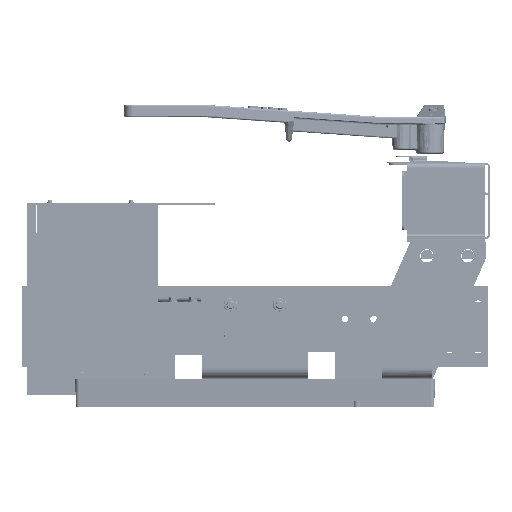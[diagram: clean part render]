
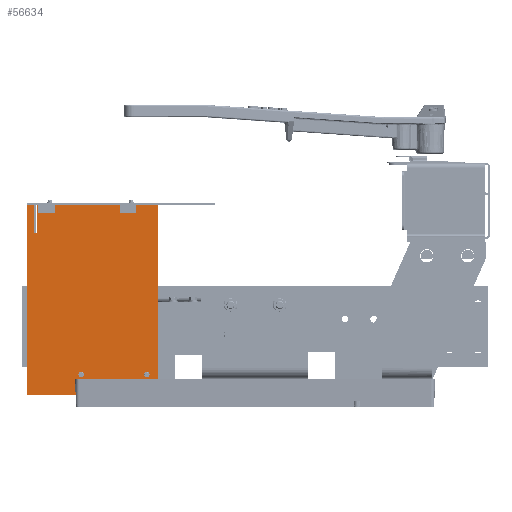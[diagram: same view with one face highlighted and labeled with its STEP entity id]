
A CAD part, left-side view. The second image highlights one B-rep face of the part: STEP entity #56634.
In plain terms, the highlighted planar face has unit normal (-1, 0, 0) as drawn and (0, 0, -1) by its records, which use the part's own axes.
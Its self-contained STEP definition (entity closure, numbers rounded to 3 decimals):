
#3199=FACE_BOUND('',#12655,.T.);
#3200=FACE_BOUND('',#12656,.T.);
#3201=FACE_BOUND('',#12657,.T.);
#3202=FACE_BOUND('',#12658,.T.);
#5075=CIRCLE('',#62670,0.097);
#5077=CIRCLE('',#62673,0.097);
#5079=CIRCLE('',#62676,0.097);
#5081=CIRCLE('',#62679,0.097);
#8926=FACE_OUTER_BOUND('',#12654,.T.);
#12654=EDGE_LOOP('',(#48302,#48303,#48304,#48305,#48306,#48307,#48308,#48309,
#48310,#48311,#48312,#48313));
#12655=EDGE_LOOP('',(#48314));
#12656=EDGE_LOOP('',(#48315));
#12657=EDGE_LOOP('',(#48316));
#12658=EDGE_LOOP('',(#48317));
#17365=LINE('',#98673,#22125);
#17369=LINE('',#98681,#22129);
#17372=LINE('',#98687,#22132);
#17375=LINE('',#98693,#22135);
#17378=LINE('',#98699,#22138);
#17381=LINE('',#98705,#22141);
#17384=LINE('',#98711,#22144);
#17387=LINE('',#98717,#22147);
#17390=LINE('',#98723,#22150);
#17393=LINE('',#98729,#22153);
#17396=LINE('',#98735,#22156);
#17399=LINE('',#98740,#22159);
#22125=VECTOR('',#75968,0.394);
#22129=VECTOR('',#75974,0.394);
#22132=VECTOR('',#75979,0.394);
#22135=VECTOR('',#75984,0.394);
#22138=VECTOR('',#75989,0.394);
#22141=VECTOR('',#75994,0.394);
#22144=VECTOR('',#75999,0.394);
#22147=VECTOR('',#76004,0.394);
#22150=VECTOR('',#76009,0.394);
#22153=VECTOR('',#76014,0.394);
#22156=VECTOR('',#76019,0.394);
#22159=VECTOR('',#76024,0.394);
#27044=VERTEX_POINT('',#98647);
#27046=VERTEX_POINT('',#98653);
#27048=VERTEX_POINT('',#98659);
#27050=VERTEX_POINT('',#98665);
#27052=VERTEX_POINT('',#98671);
#27053=VERTEX_POINT('',#98672);
#27056=VERTEX_POINT('',#98680);
#27058=VERTEX_POINT('',#98686);
#27060=VERTEX_POINT('',#98692);
#27062=VERTEX_POINT('',#98698);
#27064=VERTEX_POINT('',#98704);
#27066=VERTEX_POINT('',#98710);
#27068=VERTEX_POINT('',#98716);
#27070=VERTEX_POINT('',#98722);
#27072=VERTEX_POINT('',#98728);
#27074=VERTEX_POINT('',#98734);
#34310=EDGE_CURVE('',#27044,#27044,#5075,.T.);
#34313=EDGE_CURVE('',#27046,#27046,#5077,.T.);
#34316=EDGE_CURVE('',#27048,#27048,#5079,.T.);
#34319=EDGE_CURVE('',#27050,#27050,#5081,.T.);
#34322=EDGE_CURVE('',#27052,#27053,#17365,.T.);
#34326=EDGE_CURVE('',#27056,#27052,#17369,.T.);
#34329=EDGE_CURVE('',#27058,#27056,#17372,.T.);
#34332=EDGE_CURVE('',#27060,#27058,#17375,.T.);
#34335=EDGE_CURVE('',#27062,#27060,#17378,.T.);
#34338=EDGE_CURVE('',#27064,#27062,#17381,.T.);
#34341=EDGE_CURVE('',#27066,#27064,#17384,.T.);
#34344=EDGE_CURVE('',#27068,#27066,#17387,.T.);
#34347=EDGE_CURVE('',#27070,#27068,#17390,.T.);
#34350=EDGE_CURVE('',#27072,#27070,#17393,.T.);
#34353=EDGE_CURVE('',#27074,#27072,#17396,.T.);
#34356=EDGE_CURVE('',#27053,#27074,#17399,.T.);
#48302=ORIENTED_EDGE('',*,*,#34356,.F.);
#48303=ORIENTED_EDGE('',*,*,#34322,.F.);
#48304=ORIENTED_EDGE('',*,*,#34326,.F.);
#48305=ORIENTED_EDGE('',*,*,#34329,.F.);
#48306=ORIENTED_EDGE('',*,*,#34332,.F.);
#48307=ORIENTED_EDGE('',*,*,#34335,.F.);
#48308=ORIENTED_EDGE('',*,*,#34338,.F.);
#48309=ORIENTED_EDGE('',*,*,#34341,.F.);
#48310=ORIENTED_EDGE('',*,*,#34344,.F.);
#48311=ORIENTED_EDGE('',*,*,#34347,.F.);
#48312=ORIENTED_EDGE('',*,*,#34350,.F.);
#48313=ORIENTED_EDGE('',*,*,#34353,.F.);
#48314=ORIENTED_EDGE('',*,*,#34310,.T.);
#48315=ORIENTED_EDGE('',*,*,#34313,.T.);
#48316=ORIENTED_EDGE('',*,*,#34316,.T.);
#48317=ORIENTED_EDGE('',*,*,#34319,.T.);
#53939=PLANE('',#62694);
#56634=ADVANCED_FACE('',(#8926,#3199,#3200,#3201,#3202),#53939,.F.);
#62670=AXIS2_PLACEMENT_3D('',#98648,#75940,#75941);
#62673=AXIS2_PLACEMENT_3D('',#98654,#75947,#75948);
#62676=AXIS2_PLACEMENT_3D('',#98660,#75954,#75955);
#62679=AXIS2_PLACEMENT_3D('',#98666,#75961,#75962);
#62694=AXIS2_PLACEMENT_3D('',#98743,#76028,#76029);
#75940=DIRECTION('center_axis',(0.,0.,1.));
#75941=DIRECTION('ref_axis',(-1.,0.,0.));
#75947=DIRECTION('center_axis',(0.,0.,1.));
#75948=DIRECTION('ref_axis',(-1.,0.,0.));
#75954=DIRECTION('center_axis',(0.,0.,1.));
#75955=DIRECTION('ref_axis',(-1.,0.,0.));
#75961=DIRECTION('center_axis',(0.,0.,1.));
#75962=DIRECTION('ref_axis',(-1.,0.,0.));
#75968=DIRECTION('',(1.,0.,0.));
#75974=DIRECTION('',(0.,1.,0.));
#75979=DIRECTION('',(1.,0.,0.));
#75984=DIRECTION('',(0.,-1.,0.));
#75989=DIRECTION('',(-1.,0.,0.));
#75994=DIRECTION('',(0.,-1.,0.));
#75999=DIRECTION('',(1.,0.,0.));
#76004=DIRECTION('',(0.,-1.,0.));
#76009=DIRECTION('',(-1.,0.,0.));
#76014=DIRECTION('',(0.,1.,0.));
#76019=DIRECTION('',(1.,0.,0.));
#76024=DIRECTION('',(0.,-1.,0.));
#76028=DIRECTION('center_axis',(0.,0.,1.));
#76029=DIRECTION('ref_axis',(1.,0.,0.));
#98647=CARTESIAN_POINT('',(0.347,2.,0.));
#98648=CARTESIAN_POINT('Origin',(0.25,2.,0.));
#98653=CARTESIAN_POINT('',(0.347,7.,0.));
#98654=CARTESIAN_POINT('Origin',(0.25,7.,0.));
#98659=CARTESIAN_POINT('',(10.472,0.688,0.));
#98660=CARTESIAN_POINT('Origin',(10.375,0.688,0.));
#98665=CARTESIAN_POINT('',(10.472,4.688,0.));
#98666=CARTESIAN_POINT('Origin',(10.375,4.688,0.));
#98671=CARTESIAN_POINT('',(10.625,5.094,0.));
#98672=CARTESIAN_POINT('',(11.156,5.094,0.));
#98673=CARTESIAN_POINT('',(10.625,5.094,0.));
#98680=CARTESIAN_POINT('',(10.625,0.,0.));
#98681=CARTESIAN_POINT('',(10.625,0.,0.));
#98686=CARTESIAN_POINT('',(0.,0.,0.));
#98687=CARTESIAN_POINT('',(0.,0.,0.));
#98692=CARTESIAN_POINT('',(0.,7.422,0.));
#98693=CARTESIAN_POINT('',(0.,7.422,0.));
#98698=CARTESIAN_POINT('',(1.75,7.422,0.));
#98699=CARTESIAN_POINT('',(1.75,7.422,0.));
#98704=CARTESIAN_POINT('',(1.75,7.578,0.));
#98705=CARTESIAN_POINT('',(1.75,7.578,0.));
#98710=CARTESIAN_POINT('',(0.,7.578,0.));
#98711=CARTESIAN_POINT('',(0.,7.578,0.));
#98716=CARTESIAN_POINT('',(0.,8.,0.));
#98717=CARTESIAN_POINT('',(0.,8.,0.));
#98722=CARTESIAN_POINT('',(11.625,8.,0.));
#98723=CARTESIAN_POINT('',(11.625,8.,0.));
#98728=CARTESIAN_POINT('',(11.625,4.719,0.));
#98729=CARTESIAN_POINT('',(11.625,4.719,0.));
#98734=CARTESIAN_POINT('',(11.156,4.719,0.));
#98735=CARTESIAN_POINT('',(11.156,4.719,0.));
#98740=CARTESIAN_POINT('',(11.156,5.094,0.));
#98743=CARTESIAN_POINT('Origin',(5.401,4.41,0.));
